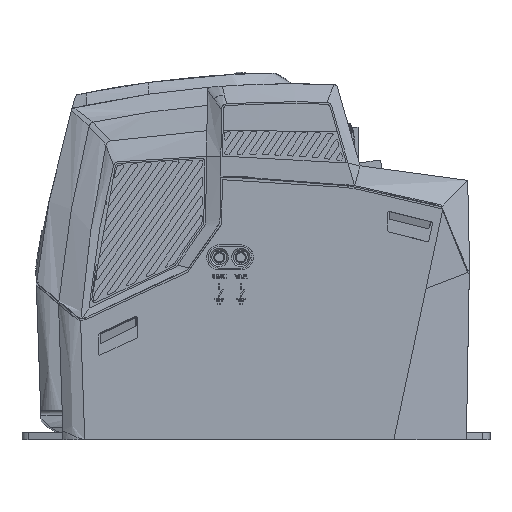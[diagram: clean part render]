
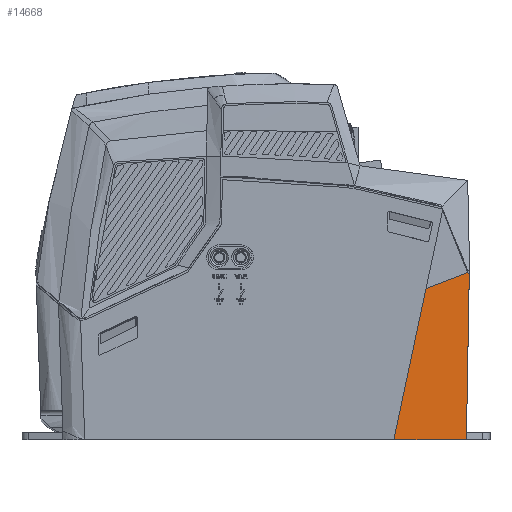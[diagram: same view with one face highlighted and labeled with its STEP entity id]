
A CAD part, left-side view. The second image highlights one B-rep face of the part: STEP entity #14668.
In plain terms, the highlighted free-form (B-spline) face has degree [2, 2] with [4, 4] control points.
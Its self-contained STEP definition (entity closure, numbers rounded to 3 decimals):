
#1 = CARTESIAN_POINT ( 'NONE',  ( -110.073, -3.211, 71.877 ) ) ;
#751 = EDGE_LOOP ( 'NONE', ( #212969, #106808, #151482, #193414, #161487, #97178 ) ) ;
#1305 = CARTESIAN_POINT ( 'NONE',  ( -110.448, 28.068, -20.79 ) ) ;
#4055 = CARTESIAN_POINT ( 'NONE',  ( -110.932, 2.126, 70.577 ) ) ;
#11204 = CARTESIAN_POINT ( 'NONE',  ( -110.123, -3.053, 72.269 ) ) ;
#14668 = ADVANCED_FACE ( 'NONE', ( #190519 ), #135654, .T. ) ;
#20671 = CARTESIAN_POINT ( 'NONE',  ( -110.007, -3.91, 72.886 ) ) ;
#26109 = CARTESIAN_POINT ( 'NONE',  ( -112.6, 33.695, 0.32 ) ) ;
#27430 = VERTEX_POINT ( 'NONE', #49368 ) ;
#29748 = VERTEX_POINT ( 'NONE', #100015 ) ;
#35628 = CARTESIAN_POINT ( 'NONE',  ( -113.213, 26.217, 35.504 ) ) ;
#46451 = CARTESIAN_POINT ( 'NONE',  ( -109.955, -3.893, 71.877 ) ) ;
#49194 = CARTESIAN_POINT ( 'NONE',  ( -105.098, -2.275, -20.79 ) ) ;
#49368 = CARTESIAN_POINT ( 'NONE',  ( -113.705, 20.234, 63.651 ) ) ;
#54040 = EDGE_CURVE ( 'NONE', #29748, #157308, #114016, .T. ) ;
#64826 = CARTESIAN_POINT ( 'NONE',  ( -113.337, 24.721, 42.541 ) ) ;
#66199 = CARTESIAN_POINT ( 'NONE',  ( -106.881, 7.84, -20.79 ) ) ;
#68902 = CARTESIAN_POINT ( 'NONE',  ( -113.705, 20.234, 63.651 ) ) ;
#73340 = CARTESIAN_POINT ( 'NONE',  ( -110.147, -2.975, 72.464 ) ) ;
#75698 = B_SPLINE_CURVE_WITH_KNOTS ( 'NONE', 3,
 ( #174244, #178300, #11204, #73340 ),
 .UNSPECIFIED., .F., .F.,
 ( 4, 4 ),
 ( 0., 1. ),
 .UNSPECIFIED. ) ;
#76593 = CARTESIAN_POINT ( 'NONE',  ( -110.147, -2.975, 72.464 ) ) ;
#77082 = EDGE_CURVE ( 'NONE', #157308, #142974, #245121, .T. ) ;
#84166 = CARTESIAN_POINT ( 'NONE',  ( -111.031, 24.6, 0.897 ) ) ;
#96438 = CARTESIAN_POINT ( 'NONE',  ( -113.705, 20.234, 63.651 ) ) ;
#97178 = ORIENTED_EDGE ( 'NONE', *, *, #109696, .T. ) ;
#100015 = CARTESIAN_POINT ( 'NONE',  ( -109.955, -3.893, 71.877 ) ) ;
#103788 = CARTESIAN_POINT ( 'NONE',  ( -111.438, 5.442, 69.268 ) ) ;
#106808 = ORIENTED_EDGE ( 'NONE', *, *, #218688, .F. ) ;
#109696 = EDGE_CURVE ( 'NONE', #251123, #179946, #75698, .T. ) ;
#114016 = B_SPLINE_CURVE_WITH_KNOTS ( 'NONE', 3,
 ( #46451, #154174, #169424, #49194 ),
 .UNSPECIFIED., .F., .F.,
 ( 4, 4 ),
 ( 0., 1. ),
 .UNSPECIFIED. ) ;
#118628 = CARTESIAN_POINT ( 'NONE',  ( -109.994, -3.665, 71.877 ) ) ;
#124050 = CARTESIAN_POINT ( 'NONE',  ( -109.955, -3.893, 71.877 ) ) ;
#125886 = CARTESIAN_POINT ( 'NONE',  ( -112.624, 13.178, 66.33 ) ) ;
#131040 = CARTESIAN_POINT ( 'NONE',  ( -106.325, -2.684, 2.629 ) ) ;
#135654 = B_SPLINE_SURFACE_WITH_KNOTS ( 'NONE', 2, 2, ( 
 ( #191875, #66199, #1305, #151754 ),
 ( #131040, #254062, #84166, #26109 ),
 ( #173850, #172492, #258162, #64826 ),
 ( #20671, #4055, #149043, #68902 ) ),
 .UNSPECIFIED., .F., .F., .F.,
 ( 3, 1, 3 ),
 ( 3, 1, 3 ),
 ( 0., 1.355, 2.711 ),
 ( 0., 0.5, 1. ),
 .UNSPECIFIED. ) ;
#138931 = CARTESIAN_POINT ( 'NONE',  ( -105.098, -2.275, -20.79 ) ) ;
#142974 = VERTEX_POINT ( 'NONE', #174539 ) ;
#149043 = CARTESIAN_POINT ( 'NONE',  ( -112.781, 14.198, 65.96 ) ) ;
#149058 = B_SPLINE_CURVE_WITH_KNOTS ( 'NONE', 3,
 ( #244275, #223565, #35628, #96438 ),
 .UNSPECIFIED., .F., .F.,
 ( 4, 4 ),
 ( 0., 1. ),
 .UNSPECIFIED. ) ;
#151482 = ORIENTED_EDGE ( 'NONE', *, *, #77082, .F. ) ;
#151754 = CARTESIAN_POINT ( 'NONE',  ( -112.231, 38.182, -20.79 ) ) ;
#154174 = CARTESIAN_POINT ( 'NONE',  ( -108.336, -3.353, 40.988 ) ) ;
#157308 = VERTEX_POINT ( 'NONE', #248984 ) ;
#160212 = B_SPLINE_CURVE_WITH_KNOTS ( 'NONE', 3,
 ( #124050, #118628, #202922, #266440 ),
 .UNSPECIFIED., .F., .F.,
 ( 4, 4 ),
 ( 0., 1. ),
 .UNSPECIFIED. ) ;
#161487 = ORIENTED_EDGE ( 'NONE', *, *, #173385, .T. ) ;
#162639 = B_SPLINE_CURVE_WITH_KNOTS ( 'NONE', 3,
 ( #76593, #103788, #125886, #210214 ),
 .UNSPECIFIED., .F., .F.,
 ( 4, 4 ),
 ( 0., 1. ),
 .UNSPECIFIED. ) ;
#169424 = CARTESIAN_POINT ( 'NONE',  ( -106.717, -2.814, 10.099 ) ) ;
#172492 = CARTESIAN_POINT ( 'NONE',  ( -109.919, 3.554, 47.735 ) ) ;
#173385 = EDGE_CURVE ( 'NONE', #29748, #251123, #160212, .T. ) ;
#173850 = CARTESIAN_POINT ( 'NONE',  ( -108.78, -3.501, 49.467 ) ) ;
#174244 = CARTESIAN_POINT ( 'NONE',  ( -110.073, -3.211, 71.877 ) ) ;
#174539 = CARTESIAN_POINT ( 'NONE',  ( -112.231, 38.182, -20.79 ) ) ;
#178300 = CARTESIAN_POINT ( 'NONE',  ( -110.098, -3.132, 72.073 ) ) ;
#179946 = VERTEX_POINT ( 'NONE', #189570 ) ;
#187688 = EDGE_CURVE ( 'NONE', #179946, #27430, #162639, .T. ) ;
#189570 = CARTESIAN_POINT ( 'NONE',  ( -110.147, -2.975, 72.464 ) ) ;
#190519 = FACE_OUTER_BOUND ( 'NONE', #751, .T. ) ;
#191875 = CARTESIAN_POINT ( 'NONE',  ( -105.098, -2.275, -20.79 ) ) ;
#193414 = ORIENTED_EDGE ( 'NONE', *, *, #54040, .F. ) ;
#199824 = CARTESIAN_POINT ( 'NONE',  ( -109.853, 24.697, -20.79 ) ) ;
#202922 = CARTESIAN_POINT ( 'NONE',  ( -110.034, -3.438, 71.877 ) ) ;
#210214 = CARTESIAN_POINT ( 'NONE',  ( -113.705, 20.234, 63.651 ) ) ;
#212969 = ORIENTED_EDGE ( 'NONE', *, *, #187688, .T. ) ;
#218688 = EDGE_CURVE ( 'NONE', #142974, #27430, #149058, .T. ) ;
#223279 = CARTESIAN_POINT ( 'NONE',  ( -107.475, 11.211, -20.79 ) ) ;
#223565 = CARTESIAN_POINT ( 'NONE',  ( -112.722, 32.199, 7.357 ) ) ;
#244275 = CARTESIAN_POINT ( 'NONE',  ( -112.231, 38.182, -20.79 ) ) ;
#245121 = B_SPLINE_CURVE_WITH_KNOTS ( 'NONE', 3,
 ( #138931, #223279, #199824, #263400 ),
 .UNSPECIFIED., .F., .F.,
 ( 4, 4 ),
 ( 0., 1. ),
 .UNSPECIFIED. ) ;
#248984 = CARTESIAN_POINT ( 'NONE',  ( -105.098, -2.275, -20.79 ) ) ;
#251123 = VERTEX_POINT ( 'NONE', #1 ) ;
#254062 = CARTESIAN_POINT ( 'NONE',  ( -107.894, 6.411, 2.052 ) ) ;
#258162 = CARTESIAN_POINT ( 'NONE',  ( -112.198, 17.665, 44.272 ) ) ;
#263400 = CARTESIAN_POINT ( 'NONE',  ( -112.231, 38.182, -20.79 ) ) ;
#266440 = CARTESIAN_POINT ( 'NONE',  ( -110.073, -3.211, 71.877 ) ) ;
